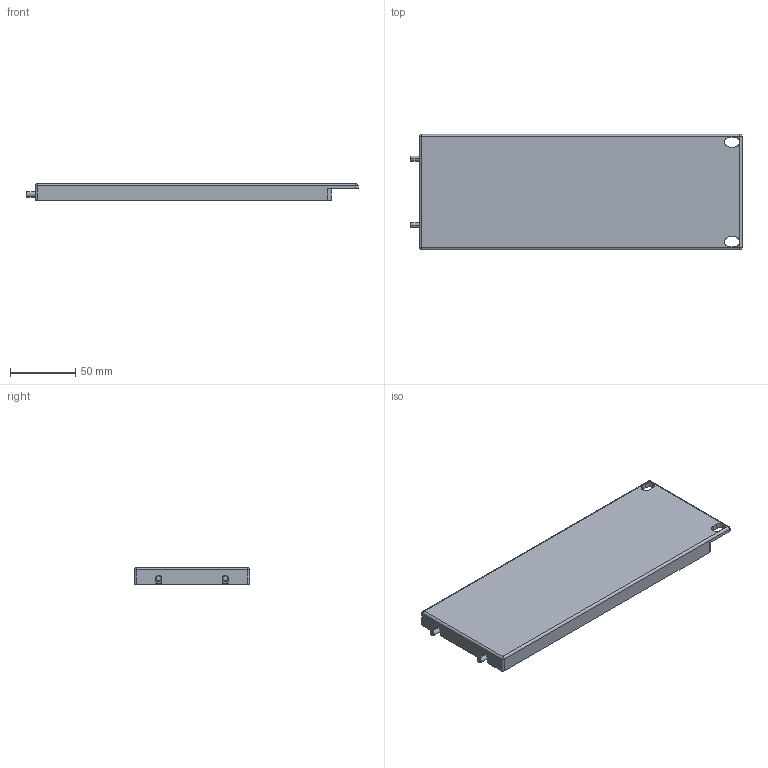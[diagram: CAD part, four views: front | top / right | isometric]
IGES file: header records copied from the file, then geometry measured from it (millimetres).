
Start section: SolidWorks IGES file using analytic representation for surfaces
Global section: file name: C:\Dropbox\Mechanical Engr\Development Projects (P)\Accessories\1401-RM-1\Customer Model Development\1401-RM-1, part 2 of 2.IGS; native system: SolidWorks 2018; preprocessor: SolidWorks 2018; author: mhanson; date: 191118.102455; units: inch
Bounding box: 253.49 x 88.14 x 12.7 mm (x, y, z)
Volume: 111909.3 mm3; surface area: 60913 mm2
Topology: 7 solids, 7 shells, 268 faces, 647 edges, 406 vertices
Faces by surface type: plane 135, revolution 84, bspline 49
